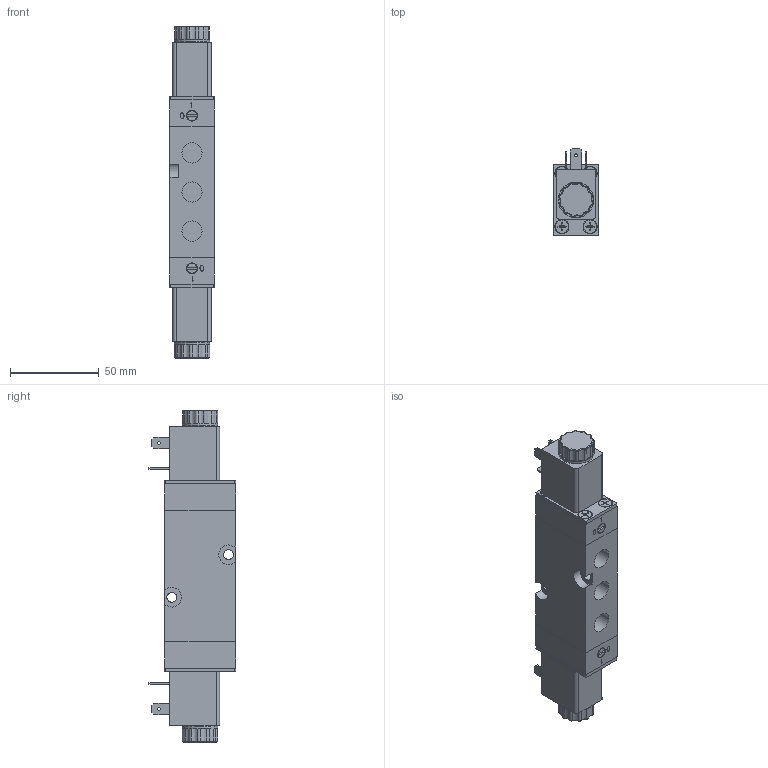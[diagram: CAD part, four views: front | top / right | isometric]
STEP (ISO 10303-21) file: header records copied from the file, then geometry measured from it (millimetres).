
FILE_DESCRIPTION (( 'STEP AP214' ), '1' );
FILE_NAME ('ICKN-55-533-HN-F12_Airtec.step', '2019-01-08T09:25:44', ( '' ), ( '' ), 'SwSTEP 2.0', 'SolidWorks 2010', '' );
FILE_SCHEMA (( 'AUTOMOTIVE_DESIGN' ));
Length unit declared in the file: millimetre
Products named in the file (3): Volumenkörper6; Volumenkörper1; ICKN-55-533-HN-F12_Airtec
Assembly tree (3 placements, depth 2):
  ICKN-55-533-HN-F12_Airtec
    Volumenkörper6
    Volumenkörper1  x2
Bounding box: 25 x 49.2 x 187.2 mm (x, y, z)
Volume: 144024.8 mm3; surface area: 35302.3 mm2
Topology: 3 solids, 3 shells, 722 faces, 1827 edges, 1164 vertices
Faces by surface type: plane 327, cylinder 158, cone 111, torus 98, bspline 28
Full cylindrical faces by diameter (mm): 1.5 x6, 2.459 x2, 5.1 x8, 5.5 x3, 7.5 x8, 8 x2, 8.15 x2, 9.04 x4, 9.1 x2, 11.445 x3, 15 x2, 16.6 x2, 20 x4
Entity records: 27645 total; most frequent: CARTESIAN_POINT 6894, DIRECTION 3320, ORIENTED_EDGE 3288, EDGE_CURVE 1644, AXIS2_PLACEMENT_3D 1297, VERTEX_POINT 1086, EDGE_LOOP 820, FACE_OUTER_BOUND 733
